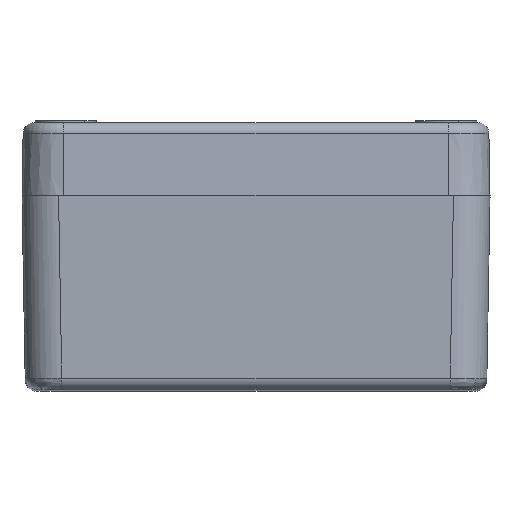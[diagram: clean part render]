
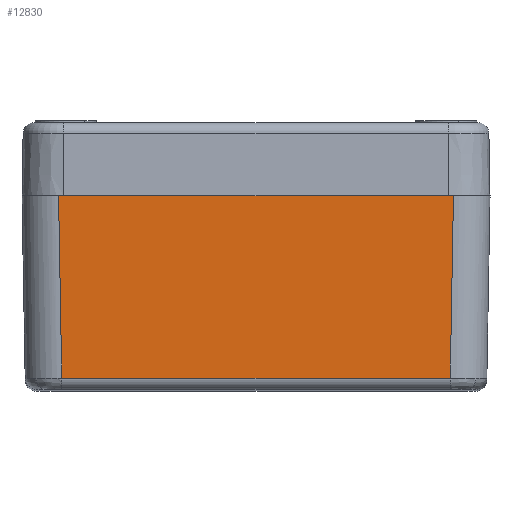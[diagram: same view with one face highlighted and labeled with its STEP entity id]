
A CAD part, top view. The second image highlights one B-rep face of the part: STEP entity #12830.
In plain terms, the highlighted planar face has unit normal (0, -0.018, 1).
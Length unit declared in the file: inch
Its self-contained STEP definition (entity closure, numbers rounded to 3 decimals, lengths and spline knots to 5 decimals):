
#474 = VERTEX_POINT ( 'NONE', #6870 ) ;
#779 = VECTOR ( 'NONE', #7582, 39.37008 ) ;
#1584 = LINE ( 'NONE', #12767, #779 ) ;
#2013 = VECTOR ( 'NONE', #10228, 39.37008 ) ;
#2307 = EDGE_CURVE ( 'NONE', #4079, #7929, #8930, .T. ) ;
#2485 = ORIENTED_EDGE ( 'NONE', *, *, #3008, .F. ) ;
#2807 = DIRECTION ( 'NONE',  ( 0., -1., -0.017 ) ) ;
#2847 = CARTESIAN_POINT ( 'NONE',  ( 0., 0., 2.95276 ) ) ;
#3008 = EDGE_CURVE ( 'NONE', #474, #7929, #1584, .T. ) ;
#3024 = VERTEX_POINT ( 'NONE', #6686 ) ;
#3142 = FACE_OUTER_BOUND ( 'NONE', #8839, .T. ) ;
#3600 = ORIENTED_EDGE ( 'NONE', *, *, #2307, .T. ) ;
#3863 = DIRECTION ( 'NONE',  ( 0.017, 1., 0.017 ) ) ;
#4079 = VERTEX_POINT ( 'NONE', #4108 ) ;
#4108 = CARTESIAN_POINT ( 'NONE',  ( 1.04588, -0.9819, 2.93562 ) ) ;
#4939 = ORIENTED_EDGE ( 'NONE', *, *, #8552, .T. ) ;
#5241 = CARTESIAN_POINT ( 'NONE',  ( 0., -0.9819, 2.93562 ) ) ;
#5669 = EDGE_CURVE ( 'NONE', #474, #3024, #10630, .T. ) ;
#5769 = LINE ( 'NONE', #5241, #11716 ) ;
#6686 = CARTESIAN_POINT ( 'NONE',  ( -1.04588, -0.9819, 2.93562 ) ) ;
#6870 = CARTESIAN_POINT ( 'NONE',  ( -1.06302, 0., 2.95276 ) ) ;
#6896 = PLANE ( 'NONE',  #11026 ) ;
#7582 = DIRECTION ( 'NONE',  ( 1., 0., 0. ) ) ;
#7767 = ORIENTED_EDGE ( 'NONE', *, *, #5669, .T. ) ;
#7929 = VERTEX_POINT ( 'NONE', #8233 ) ;
#8233 = CARTESIAN_POINT ( 'NONE',  ( 1.06302, 0., 2.95276 ) ) ;
#8552 = EDGE_CURVE ( 'NONE', #3024, #4079, #5769, .T. ) ;
#8839 = EDGE_LOOP ( 'NONE', ( #7767, #4939, #3600, #2485 ) ) ;
#8930 = LINE ( 'NONE', #9010, #10388 ) ;
#8960 = CARTESIAN_POINT ( 'NONE',  ( -1.0627, -0.01854, 2.95243 ) ) ;
#9010 = CARTESIAN_POINT ( 'NONE',  ( 1.0627, -0.01854, 2.95243 ) ) ;
#10116 = DIRECTION ( 'NONE',  ( 0., -0.017, 1. ) ) ;
#10228 = DIRECTION ( 'NONE',  ( 0.017, -1., -0.017 ) ) ;
#10388 = VECTOR ( 'NONE', #3863, 39.37008 ) ;
#10630 = LINE ( 'NONE', #8960, #2013 ) ;
#11026 = AXIS2_PLACEMENT_3D ( 'NONE', #2847, #10116, #2807 ) ;
#11581 = DIRECTION ( 'NONE',  ( 1., 0., 0. ) ) ;
#11716 = VECTOR ( 'NONE', #11581, 39.37008 ) ;
#12767 = CARTESIAN_POINT ( 'NONE',  ( 0., 0., 2.95276 ) ) ;
#12830 = ADVANCED_FACE ( 'NONE', ( #3142 ), #6896, .T. ) ;
